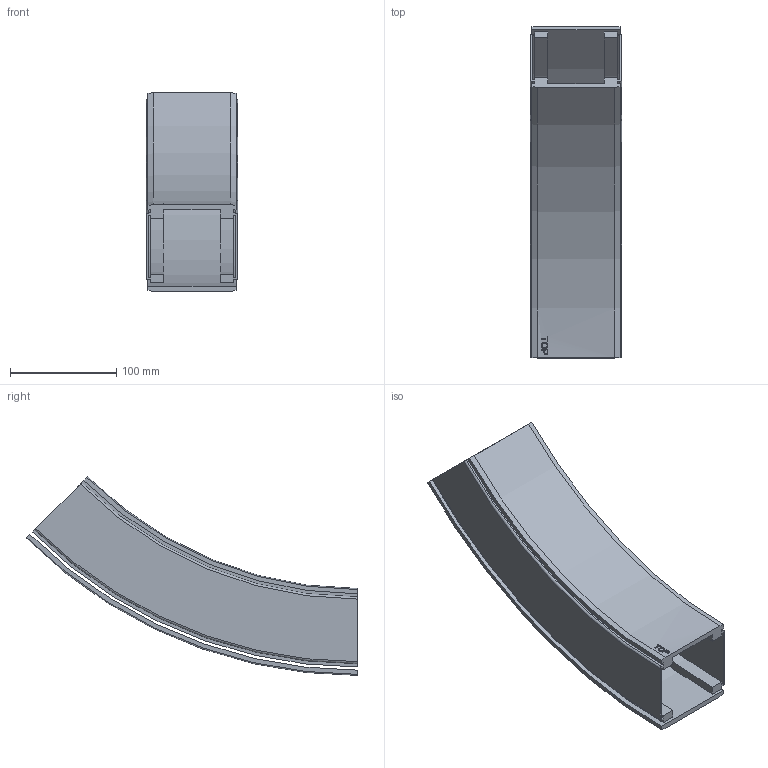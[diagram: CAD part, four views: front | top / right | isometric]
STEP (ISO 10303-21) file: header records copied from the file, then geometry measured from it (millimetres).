
FILE_DESCRIPTION(/* description */ ('VERTIKALKURVA S530 R400'),/* implementation_level */ '2;1');
FILE_NAME(/* name */ '530-5645+830-2000-UPP-01.stp',/* time_stamp */ '2022-09-21T07:05:58+02:00',/* author */ ('Mathias.Dore'),/* organization */ (''),/* preprocessor_version */ 'ST-DEVELOPER v19.2',/* originating_system */ 'Autodesk Inventor 2023',/* authorisation */ '');
FILE_SCHEMA (('AUTOMOTIVE_DESIGN { 1 0 10303 214 3 1 1 }'));
Length unit declared in the file: millimetre
Products named in the file (1): 530-5645+830-2000-UPP-01
Bounding box: 86 x 312.89 x 187.59 mm (x, y, z)
Volume: 467353.3 mm3; surface area: 230611.6 mm2
Topology: 2 solids, 2 shells, 87 faces, 234 edges, 156 vertices
Faces by surface type: plane 40, cylinder 25, bspline 14, cone 4, torus 4
Entity records: 7333 total; most frequent: CARTESIAN_POINT 5134, ORIENTED_EDGE 468, DIRECTION 408, EDGE_CURVE 234, VERTEX_POINT 156, AXIS2_PLACEMENT_3D 141, LINE 126, VECTOR 126
